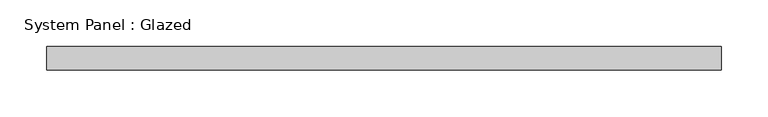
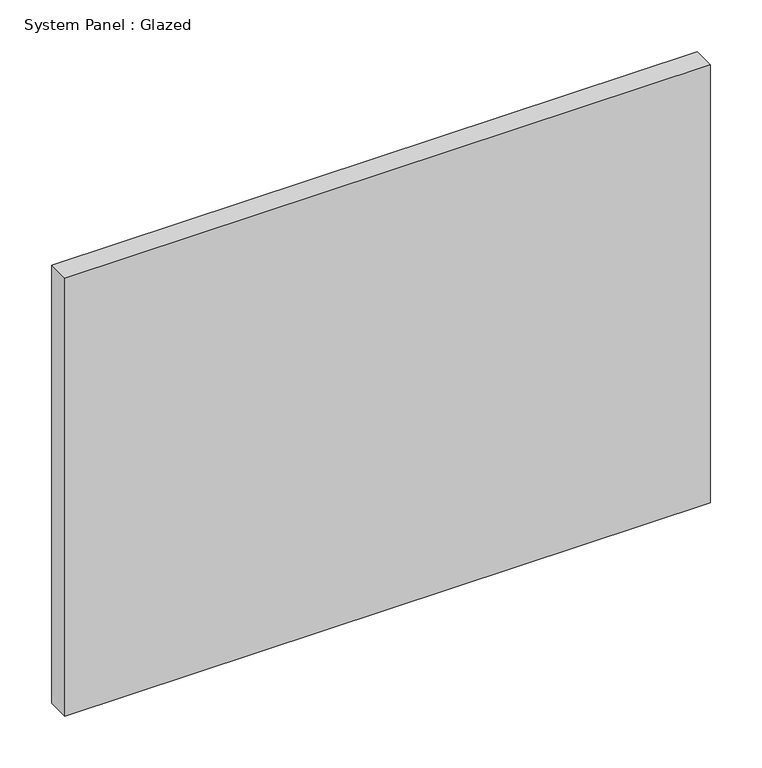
"""IFC4 building model written with IfcOpenShell, lengths in millimetres: plate geometry, System Panel : Glazed."""

from ifc_helpers import new_model, si_unit, origin, origin_with_axes, place, context, project, spatial, polyline, outline, extrude, source, transform, mapped, element, save


def system_panel_glazed_30afbcb2(model_context):
    return source(origin(), model_context, "Body", "SweptSolid", [
        extrude(outline(polyline([(360.0, 24.5), (-360.0, 24.5), (-360.0, 49.5), (360.0, 49.5), (360.0, 24.5)])), origin_with_axes(), (0.0, 0.0, 1.0), 516.4776696),
    ])


if __name__ == "__main__":
    model = new_model("IFC4")
    model_context = context("Model", 3, world=origin())
    ifc_project = project(units=[si_unit("LENGTHUNIT", "METRE", prefix="MILLI")], contexts=[model_context])
    site = spatial("IfcSite", under=ifc_project)
    building = spatial("IfcBuilding", under=site)
    placement = place(None, origin())
    system_panel_glazed_shape = system_panel_glazed_30afbcb2(model_context)
    element("IfcPlate", 1, ObjectType="System Panel : Glazed", at=placement, inside=building, context=model_context, shape_type="MappedRepresentation", body=[
        mapped(system_panel_glazed_shape, transform((0.0, 0.0, 0.0), x_axis=(1.0, 0.0, 0.0), y_axis=(0.0, 1.0, 0.0), z_axis=(0.0, 0.0, 1.0))),
    ])
    save(model, "model.ifc")
